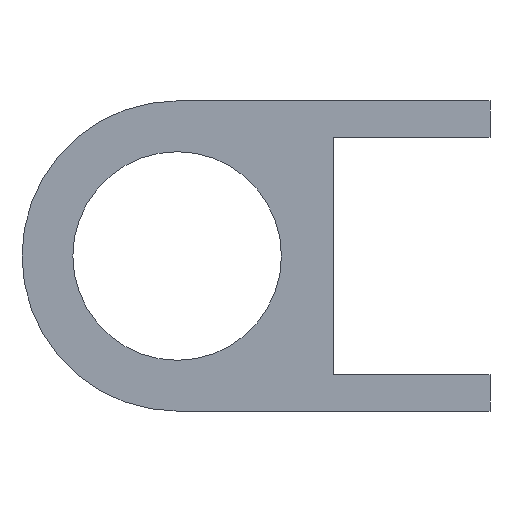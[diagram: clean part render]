
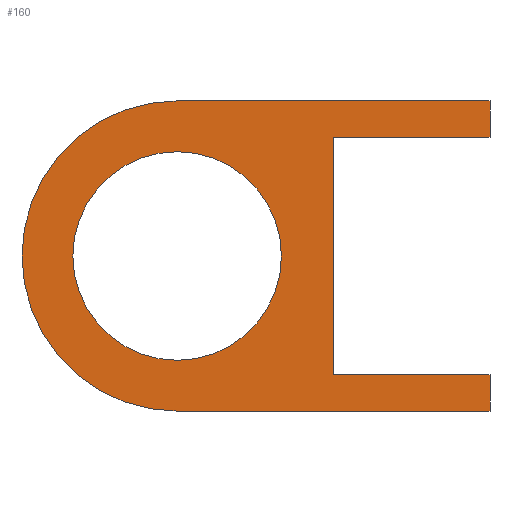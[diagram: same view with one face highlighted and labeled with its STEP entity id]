
A CAD part, left-side view. The second image highlights one B-rep face of the part: STEP entity #160.
In plain terms, the highlighted planar face has unit normal (-1, 0, 0).
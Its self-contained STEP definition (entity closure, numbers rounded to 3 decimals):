
#130=FACE_BOUND('',#194,.T.);
#131=FACE_BOUND('',#195,.T.);
#141=CIRCLE('',#372,29.75);
#147=CIRCLE('',#384,20.);
#160=ADVANCED_FACE('',(#130,#131),#173,.F.);
#173=PLANE('',#387);
#194=EDGE_LOOP('',(#251,#252,#253,#254,#255,#256,#257,#258));
#195=EDGE_LOOP('',(#259));
#251=ORIENTED_EDGE('',*,*,#292,.F.);
#252=ORIENTED_EDGE('',*,*,#318,.F.);
#253=ORIENTED_EDGE('',*,*,#314,.F.);
#254=ORIENTED_EDGE('',*,*,#311,.F.);
#255=ORIENTED_EDGE('',*,*,#307,.F.);
#256=ORIENTED_EDGE('',*,*,#304,.F.);
#257=ORIENTED_EDGE('',*,*,#300,.F.);
#258=ORIENTED_EDGE('',*,*,#297,.F.);
#259=ORIENTED_EDGE('',*,*,#321,.T.);
#268=VERTEX_POINT('',#470);
#269=VERTEX_POINT('',#471);
#273=VERTEX_POINT('',#481);
#275=VERTEX_POINT('',#487);
#278=VERTEX_POINT('',#495);
#280=VERTEX_POINT('',#501);
#283=VERTEX_POINT('',#509);
#285=VERTEX_POINT('',#515);
#289=VERTEX_POINT('',#528);
#292=EDGE_CURVE('',#268,#269,#324,.T.);
#297=EDGE_CURVE('',#269,#273,#328,.T.);
#300=EDGE_CURVE('',#273,#275,#141,.T.);
#304=EDGE_CURVE('',#275,#278,#332,.T.);
#307=EDGE_CURVE('',#278,#280,#335,.T.);
#311=EDGE_CURVE('',#280,#283,#338,.T.);
#314=EDGE_CURVE('',#283,#285,#341,.T.);
#318=EDGE_CURVE('',#285,#268,#344,.T.);
#321=EDGE_CURVE('',#289,#289,#147,.T.);
#324=LINE('',#469,#346);
#328=LINE('',#480,#350);
#332=LINE('',#494,#354);
#335=LINE('',#500,#357);
#338=LINE('',#508,#360);
#341=LINE('',#514,#363);
#344=LINE('',#522,#366);
#346=VECTOR('',#396,1.);
#350=VECTOR('',#404,1.);
#354=VECTOR('',#418,1.);
#357=VECTOR('',#423,1.);
#360=VECTOR('',#430,1.);
#363=VECTOR('',#435,1.);
#366=VECTOR('',#442,1.);
#372=AXIS2_PLACEMENT_3D('',#486,#409,#410);
#384=AXIS2_PLACEMENT_3D('',#527,#448,#449);
#387=AXIS2_PLACEMENT_3D('',#531,#454,#455);
#396=DIRECTION('',(0.,0.,-1.));
#404=DIRECTION('',(0.,1.,0.));
#409=DIRECTION('',(1.,0.,0.));
#410=DIRECTION('',(0.,0.,-1.));
#418=DIRECTION('',(0.,-1.,0.));
#423=DIRECTION('',(0.,0.,-1.));
#430=DIRECTION('',(0.,1.,0.));
#435=DIRECTION('',(0.,0.,-1.));
#442=DIRECTION('',(0.,-1.,0.));
#448=DIRECTION('',(1.,0.,0.));
#449=DIRECTION('',(0.,0.,-1.));
#454=DIRECTION('',(1.,0.,0.));
#455=DIRECTION('',(0.,0.,-1.));
#469=CARTESIAN_POINT('',(0.,-30.,-22.75));
#470=CARTESIAN_POINT('',(0.,-30.,-22.75));
#471=CARTESIAN_POINT('',(0.,-30.,-29.75));
#480=CARTESIAN_POINT('',(0.,-30.,-29.75));
#481=CARTESIAN_POINT('',(0.,30.,-29.75));
#486=CARTESIAN_POINT('',(0.,30.,0.));
#487=CARTESIAN_POINT('',(0.,30.,29.75));
#494=CARTESIAN_POINT('',(0.,30.,29.75));
#495=CARTESIAN_POINT('',(0.,-30.,29.75));
#500=CARTESIAN_POINT('',(0.,-30.,29.75));
#501=CARTESIAN_POINT('',(0.,-30.,22.75));
#508=CARTESIAN_POINT('',(0.,-30.,22.75));
#509=CARTESIAN_POINT('',(0.,0.,22.75));
#514=CARTESIAN_POINT('',(0.,0.,22.75));
#515=CARTESIAN_POINT('',(0.,0.,-22.75));
#522=CARTESIAN_POINT('',(0.,0.,-22.75));
#527=CARTESIAN_POINT('',(0.,30.,0.));
#528=CARTESIAN_POINT('',(0.,30.,-20.));
#531=CARTESIAN_POINT('',(0.,30.,0.));
